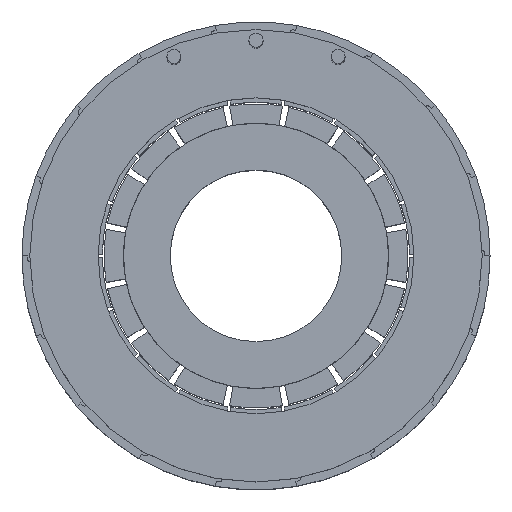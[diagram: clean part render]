
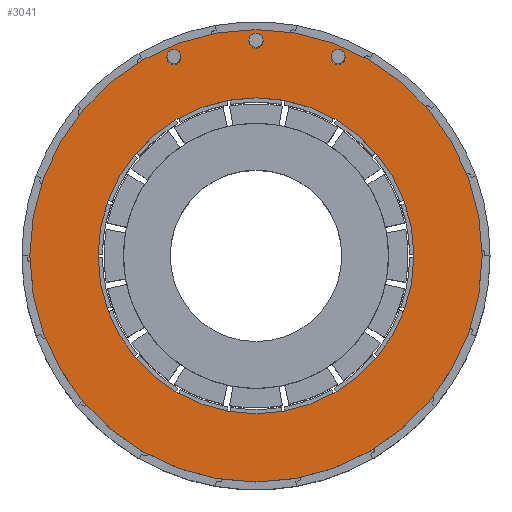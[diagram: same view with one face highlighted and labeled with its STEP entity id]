
A CAD part, top view. The second image highlights one B-rep face of the part: STEP entity #3041.
In plain terms, the highlighted planar face has unit normal (0, 0, 1).
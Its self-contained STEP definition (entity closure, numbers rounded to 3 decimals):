
#43 = VERTEX_POINT ( 'NONE', #2902 ) ;
#74 = FACE_OUTER_BOUND ( 'NONE', #100, .T. ) ;
#80 = EDGE_LOOP ( 'NONE', ( #133, #248 ) ) ;
#100 = EDGE_LOOP ( 'NONE', ( #1543, #2956 ) ) ;
#133 = ORIENTED_EDGE ( 'NONE', *, *, #2629, .F. ) ;
#144 = FACE_BOUND ( 'NONE', #80, .T. ) ;
#161 = DIRECTION ( 'NONE',  ( 1., 0., 0. ) ) ;
#201 = CARTESIAN_POINT ( 'NONE',  ( -20.25, 0., 31.8 ) ) ;
#221 = CARTESIAN_POINT ( 'NONE',  ( -29., 0., 31.8 ) ) ;
#225 = CIRCLE ( 'NONE', #1691, 20.25 ) ;
#233 = CARTESIAN_POINT ( 'NONE',  ( 0., 0., 31.8 ) ) ;
#248 = ORIENTED_EDGE ( 'NONE', *, *, #1178, .F. ) ;
#267 = EDGE_CURVE ( 'NONE', #2284, #404, #1634, .T. ) ;
#278 = AXIS2_PLACEMENT_3D ( 'NONE', #310, #1308, #1347 ) ;
#310 = CARTESIAN_POINT ( 'NONE',  ( 10.524, 25.407, 31.8 ) ) ;
#397 = EDGE_CURVE ( 'NONE', #559, #2419, #2689, .T. ) ;
#404 = VERTEX_POINT ( 'NONE', #221 ) ;
#431 = AXIS2_PLACEMENT_3D ( 'NONE', #1220, #2219, #469 ) ;
#432 = EDGE_LOOP ( 'NONE', ( #1509, #2108 ) ) ;
#453 = ORIENTED_EDGE ( 'NONE', *, *, #514, .F. ) ;
#465 = DIRECTION ( 'NONE',  ( 1., 0., 0. ) ) ;
#469 = DIRECTION ( 'NONE',  ( 1., 0., 0. ) ) ;
#482 = CARTESIAN_POINT ( 'NONE',  ( 0., 27.5, 31.8 ) ) ;
#514 = EDGE_CURVE ( 'NONE', #1063, #2363, #2370, .T. ) ;
#516 = DIRECTION ( 'NONE',  ( 0., 0., 1. ) ) ;
#559 = VERTEX_POINT ( 'NONE', #1607 ) ;
#581 = CARTESIAN_POINT ( 'NONE',  ( 0., 0., 31.8 ) ) ;
#606 = CARTESIAN_POINT ( 'NONE',  ( 10.524, 25.407, 31.8 ) ) ;
#679 = EDGE_LOOP ( 'NONE', ( #453, #1694 ) ) ;
#685 = DIRECTION ( 'NONE',  ( 1., 0., 0. ) ) ;
#726 = DIRECTION ( 'NONE',  ( 0., 0., 1. ) ) ;
#770 = CARTESIAN_POINT ( 'NONE',  ( -10.524, 25.407, 31.8 ) ) ;
#828 = VERTEX_POINT ( 'NONE', #201 ) ;
#848 = AXIS2_PLACEMENT_3D ( 'NONE', #482, #516, #2534 ) ;
#881 = EDGE_LOOP ( 'NONE', ( #2259, #1291 ) ) ;
#982 = CARTESIAN_POINT ( 'NONE',  ( 0., 0., 31.8 ) ) ;
#1041 = DIRECTION ( 'NONE',  ( 1., 0., 0. ) ) ;
#1056 = EDGE_CURVE ( 'NONE', #2363, #1063, #1839, .T. ) ;
#1063 = VERTEX_POINT ( 'NONE', #2287 ) ;
#1111 = FACE_BOUND ( 'NONE', #881, .T. ) ;
#1113 = AXIS2_PLACEMENT_3D ( 'NONE', #770, #2771, #3046 ) ;
#1178 = EDGE_CURVE ( 'NONE', #43, #1658, #2263, .T. ) ;
#1220 = CARTESIAN_POINT ( 'NONE',  ( -10.524, 25.407, 31.8 ) ) ;
#1242 = DIRECTION ( 'NONE',  ( 0., 0., 1. ) ) ;
#1291 = ORIENTED_EDGE ( 'NONE', *, *, #2380, .F. ) ;
#1308 = DIRECTION ( 'NONE',  ( 0., 0., 1. ) ) ;
#1347 = DIRECTION ( 'NONE',  ( 1., 0., 0. ) ) ;
#1368 = PLANE ( 'NONE',  #2224 ) ;
#1381 = CARTESIAN_POINT ( 'NONE',  ( -0.9, 27.5, 31.8 ) ) ;
#1412 = CARTESIAN_POINT ( 'NONE',  ( 0., 0., 31.8 ) ) ;
#1461 = CARTESIAN_POINT ( 'NONE',  ( 11.424, 25.407, 31.8 ) ) ;
#1465 = CARTESIAN_POINT ( 'NONE',  ( 0., 0., 31.8 ) ) ;
#1509 = ORIENTED_EDGE ( 'NONE', *, *, #1913, .F. ) ;
#1532 = CIRCLE ( 'NONE', #2159, 29. ) ;
#1543 = ORIENTED_EDGE ( 'NONE', *, *, #1698, .T. ) ;
#1607 = CARTESIAN_POINT ( 'NONE',  ( 9.624, 25.407, 31.8 ) ) ;
#1632 = DIRECTION ( 'NONE',  ( 1., 0., 0. ) ) ;
#1634 = CIRCLE ( 'NONE', #1994, 29. ) ;
#1658 = VERTEX_POINT ( 'NONE', #1381 ) ;
#1691 = AXIS2_PLACEMENT_3D ( 'NONE', #1465, #2853, #2469 ) ;
#1694 = ORIENTED_EDGE ( 'NONE', *, *, #1056, .F. ) ;
#1698 = EDGE_CURVE ( 'NONE', #404, #2284, #1532, .T. ) ;
#1802 = VERTEX_POINT ( 'NONE', #1871 ) ;
#1839 = CIRCLE ( 'NONE', #431, 0.9 ) ;
#1871 = CARTESIAN_POINT ( 'NONE',  ( 20.25, 0., 31.8 ) ) ;
#1913 = EDGE_CURVE ( 'NONE', #828, #1802, #2214, .T. ) ;
#1934 = DIRECTION ( 'NONE',  ( 0., 0., 1. ) ) ;
#1966 = DIRECTION ( 'NONE',  ( 0., 0., 1. ) ) ;
#1989 = DIRECTION ( 'NONE',  ( 0., 0., 1. ) ) ;
#1994 = AXIS2_PLACEMENT_3D ( 'NONE', #982, #1242, #2255 ) ;
#2017 = EDGE_CURVE ( 'NONE', #1802, #828, #225, .T. ) ;
#2075 = FACE_BOUND ( 'NONE', #679, .T. ) ;
#2088 = FACE_BOUND ( 'NONE', #432, .T. ) ;
#2108 = ORIENTED_EDGE ( 'NONE', *, *, #2017, .F. ) ;
#2110 = AXIS2_PLACEMENT_3D ( 'NONE', #2940, #1966, #685 ) ;
#2159 = AXIS2_PLACEMENT_3D ( 'NONE', #1412, #1934, #161 ) ;
#2214 = CIRCLE ( 'NONE', #2587, 20.25 ) ;
#2219 = DIRECTION ( 'NONE',  ( 0., 0., 1. ) ) ;
#2224 = AXIS2_PLACEMENT_3D ( 'NONE', #581, #2834, #1632 ) ;
#2255 = DIRECTION ( 'NONE',  ( 1., 0., 0. ) ) ;
#2259 = ORIENTED_EDGE ( 'NONE', *, *, #397, .F. ) ;
#2263 = CIRCLE ( 'NONE', #848, 0.9 ) ;
#2270 = CIRCLE ( 'NONE', #278, 0.9 ) ;
#2284 = VERTEX_POINT ( 'NONE', #3055 ) ;
#2287 = CARTESIAN_POINT ( 'NONE',  ( -11.424, 25.407, 31.8 ) ) ;
#2363 = VERTEX_POINT ( 'NONE', #2553 ) ;
#2370 = CIRCLE ( 'NONE', #1113, 0.9 ) ;
#2380 = EDGE_CURVE ( 'NONE', #2419, #559, #2270, .T. ) ;
#2419 = VERTEX_POINT ( 'NONE', #1461 ) ;
#2469 = DIRECTION ( 'NONE',  ( 1., 0., 0. ) ) ;
#2534 = DIRECTION ( 'NONE',  ( 1., 0., 0. ) ) ;
#2553 = CARTESIAN_POINT ( 'NONE',  ( -9.624, 25.407, 31.8 ) ) ;
#2587 = AXIS2_PLACEMENT_3D ( 'NONE', #233, #726, #465 ) ;
#2629 = EDGE_CURVE ( 'NONE', #1658, #43, #2795, .T. ) ;
#2689 = CIRCLE ( 'NONE', #2786, 0.9 ) ;
#2771 = DIRECTION ( 'NONE',  ( 0., 0., 1. ) ) ;
#2786 = AXIS2_PLACEMENT_3D ( 'NONE', #606, #1989, #1041 ) ;
#2795 = CIRCLE ( 'NONE', #2110, 0.9 ) ;
#2834 = DIRECTION ( 'NONE',  ( 0., 0., 1. ) ) ;
#2853 = DIRECTION ( 'NONE',  ( 0., 0., 1. ) ) ;
#2902 = CARTESIAN_POINT ( 'NONE',  ( 0.9, 27.5, 31.8 ) ) ;
#2940 = CARTESIAN_POINT ( 'NONE',  ( 0., 27.5, 31.8 ) ) ;
#2956 = ORIENTED_EDGE ( 'NONE', *, *, #267, .T. ) ;
#3041 = ADVANCED_FACE ( 'NONE', ( #2075, #1111, #144, #74, #2088 ), #1368, .T. ) ;
#3046 = DIRECTION ( 'NONE',  ( 1., 0., 0. ) ) ;
#3055 = CARTESIAN_POINT ( 'NONE',  ( 29., 0., 31.8 ) ) ;
